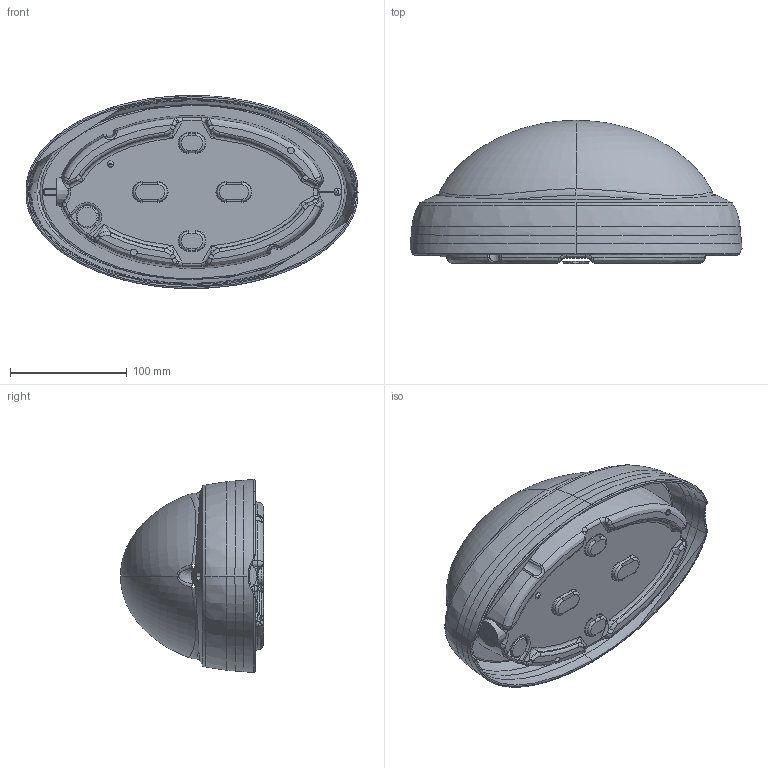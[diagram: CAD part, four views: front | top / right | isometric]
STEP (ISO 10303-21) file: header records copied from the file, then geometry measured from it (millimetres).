
FILE_DESCRIPTION((''),'2;1');
FILE_NAME('AIRY_OVALE_300','2025-07-29T09:07:46',('Minervini'),(''),'CREO PARAMETRIC BY PTC INC, 2025010','CREO PARAMETRIC BY PTC INC, 2025010','');
FILE_SCHEMA(('CONFIG_CONTROL_DESIGN'));
Products named in the file (1): AIRY_OVALE_300
Bounding box: 284.95 x 122.75 x 165.83 mm (x, y, z)
Surface area: 191215.4 mm2 (no closed solid volume)
Topology: 0 solids, 20 shells, 252 faces, 789 edges, 532 vertices
Faces by surface type: bspline 170, plane 27, torus 19, cylinder 18, cone 13, sphere 3, extrusion 2
Entity records: 44157 total; most frequent: CARTESIAN_POINT 38810, ORIENTED_EDGE 1175, EDGE_CURVE 785, DIRECTION 700, VERTEX_POINT 532, B_SPLINE_CURVE_WITH_KNOTS 461, AXIS2_PLACEMENT_3D 292, EDGE_LOOP 252
